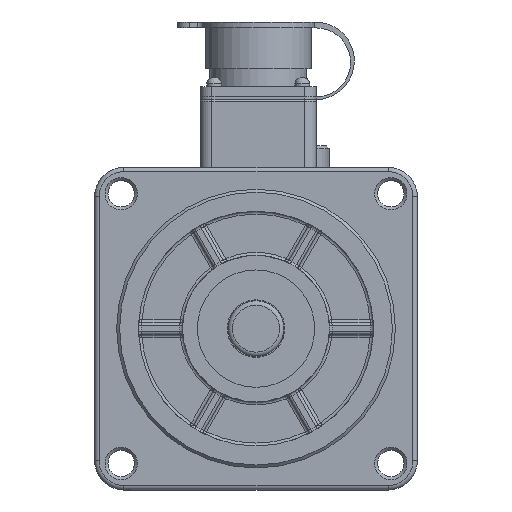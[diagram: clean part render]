
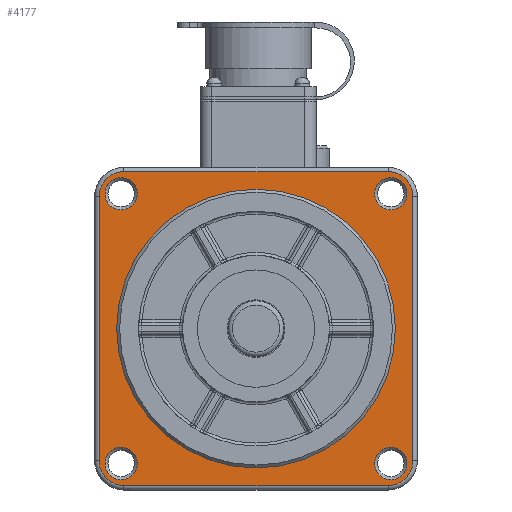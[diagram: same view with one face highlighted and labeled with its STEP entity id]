
A CAD part, front view. The second image highlights one B-rep face of the part: STEP entity #4177.
In plain terms, the highlighted planar face has unit normal (0, -1, 0).
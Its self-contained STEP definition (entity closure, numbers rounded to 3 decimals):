
#865=LINE('',#25832,#1773);
#866=LINE('',#25837,#1774);
#867=LINE('',#25841,#1775);
#868=LINE('',#25845,#1776);
#1773=VECTOR('',#19889,1.);
#1774=VECTOR('',#19892,1.);
#1775=VECTOR('',#19895,1.);
#1776=VECTOR('',#19898,1.);
#4177=ADVANCED_FACE('',(#5441,#5442,#5443,#5444,#5445,#5446),#5081,.F.);
#5081=PLANE('',#16956);
#5441=FACE_BOUND('',#6072,.T.);
#5442=FACE_BOUND('',#6073,.T.);
#5443=FACE_BOUND('',#6074,.T.);
#5444=FACE_BOUND('',#6075,.T.);
#5445=FACE_BOUND('',#6076,.T.);
#5446=FACE_BOUND('',#6077,.T.);
#6072=EDGE_LOOP('',(#8173,#8174,#8175,#8176,#8177,#8178,#8179,#8180));
#6073=EDGE_LOOP('',(#8181));
#6074=EDGE_LOOP('',(#8182));
#6075=EDGE_LOOP('',(#8183));
#6076=EDGE_LOOP('',(#8184));
#6077=EDGE_LOOP('',(#8185));
#8173=ORIENTED_EDGE('',*,*,#13678,.T.);
#8174=ORIENTED_EDGE('',*,*,#13679,.T.);
#8175=ORIENTED_EDGE('',*,*,#13680,.T.);
#8176=ORIENTED_EDGE('',*,*,#13681,.T.);
#8177=ORIENTED_EDGE('',*,*,#13682,.T.);
#8178=ORIENTED_EDGE('',*,*,#13683,.T.);
#8179=ORIENTED_EDGE('',*,*,#13684,.T.);
#8180=ORIENTED_EDGE('',*,*,#13685,.T.);
#8181=ORIENTED_EDGE('',*,*,#13661,.T.);
#8182=ORIENTED_EDGE('',*,*,#13686,.F.);
#8183=ORIENTED_EDGE('',*,*,#13687,.T.);
#8184=ORIENTED_EDGE('',*,*,#13688,.T.);
#8185=ORIENTED_EDGE('',*,*,#13689,.T.);
#12043=VERTEX_POINT('',#25768);
#12056=VERTEX_POINT('',#25833);
#12057=VERTEX_POINT('',#25834);
#12058=VERTEX_POINT('',#25836);
#12059=VERTEX_POINT('',#25838);
#12060=VERTEX_POINT('',#25840);
#12061=VERTEX_POINT('',#25842);
#12062=VERTEX_POINT('',#25844);
#12063=VERTEX_POINT('',#25846);
#12064=VERTEX_POINT('',#25849);
#12065=VERTEX_POINT('',#25851);
#12066=VERTEX_POINT('',#25853);
#12067=VERTEX_POINT('',#25855);
#13661=EDGE_CURVE('',#12043,#12043,#15579,.T.);
#13678=EDGE_CURVE('',#12056,#12057,#865,.T.);
#13679=EDGE_CURVE('',#12057,#12058,#15592,.T.);
#13680=EDGE_CURVE('',#12058,#12059,#866,.T.);
#13681=EDGE_CURVE('',#12059,#12060,#15593,.T.);
#13682=EDGE_CURVE('',#12060,#12061,#867,.T.);
#13683=EDGE_CURVE('',#12061,#12062,#15594,.T.);
#13684=EDGE_CURVE('',#12062,#12063,#868,.T.);
#13685=EDGE_CURVE('',#12063,#12056,#15595,.T.);
#13686=EDGE_CURVE('',#12064,#12064,#15596,.T.);
#13687=EDGE_CURVE('',#12065,#12065,#15597,.T.);
#13688=EDGE_CURVE('',#12066,#12066,#15598,.T.);
#13689=EDGE_CURVE('',#12067,#12067,#15599,.T.);
#15579=CIRCLE('',#16930,5.5);
#15592=CIRCLE('',#16948,8.5);
#15593=CIRCLE('',#16949,8.5);
#15594=CIRCLE('',#16950,8.5);
#15595=CIRCLE('',#16951,8.5);
#15596=CIRCLE('',#16952,47.5);
#15597=CIRCLE('',#16953,5.5);
#15598=CIRCLE('',#16954,5.5);
#15599=CIRCLE('',#16955,5.5);
#16930=AXIS2_PLACEMENT_3D('',#25767,#19851,#19852);
#16948=AXIS2_PLACEMENT_3D('',#25835,#19890,#19891);
#16949=AXIS2_PLACEMENT_3D('',#25839,#19893,#19894);
#16950=AXIS2_PLACEMENT_3D('',#25843,#19896,#19897);
#16951=AXIS2_PLACEMENT_3D('',#25847,#19899,#19900);
#16952=AXIS2_PLACEMENT_3D('',#25848,#19901,#19902);
#16953=AXIS2_PLACEMENT_3D('',#25850,#19903,#19904);
#16954=AXIS2_PLACEMENT_3D('',#25852,#19905,#19906);
#16955=AXIS2_PLACEMENT_3D('',#25854,#19907,#19908);
#16956=AXIS2_PLACEMENT_3D('',#25856,#19909,#19910);
#19851=DIRECTION('',(0.,1.,0.));
#19852=DIRECTION('',(-1.,0.,0.));
#19889=DIRECTION('',(0.,0.,1.));
#19890=DIRECTION('',(0.,-1.,0.));
#19891=DIRECTION('',(0.,0.,1.));
#19892=DIRECTION('',(-1.,0.,0.));
#19893=DIRECTION('',(0.,-1.,0.));
#19894=DIRECTION('',(0.,0.,1.));
#19895=DIRECTION('',(0.,0.,-1.));
#19896=DIRECTION('',(0.,-1.,0.));
#19897=DIRECTION('',(0.,0.,1.));
#19898=DIRECTION('',(1.,0.,0.));
#19899=DIRECTION('',(0.,-1.,0.));
#19900=DIRECTION('',(0.,0.,1.));
#19901=DIRECTION('',(0.,-1.,0.));
#19902=DIRECTION('',(-1.,0.,0.));
#19903=DIRECTION('',(0.,1.,0.));
#19904=DIRECTION('',(-1.,0.,0.));
#19905=DIRECTION('',(0.,1.,0.));
#19906=DIRECTION('',(-1.,0.,0.));
#19907=DIRECTION('',(0.,1.,0.));
#19908=DIRECTION('',(-1.,0.,0.));
#19909=DIRECTION('',(0.,1.,0.));
#19910=DIRECTION('',(1.,0.,0.));
#25767=CARTESIAN_POINT('',(401.086,483.922,-137.154));
#25768=CARTESIAN_POINT('',(395.586,483.922,-137.154));
#25832=CARTESIAN_POINT('',(408.624,483.922,-46.192));
#25833=CARTESIAN_POINT('',(408.624,483.922,-136.192));
#25834=CARTESIAN_POINT('',(408.624,483.922,-46.192));
#25835=CARTESIAN_POINT('',(400.124,483.922,-46.192));
#25836=CARTESIAN_POINT('',(400.124,483.922,-37.692));
#25837=CARTESIAN_POINT('',(310.124,483.922,-37.692));
#25838=CARTESIAN_POINT('',(310.124,483.922,-37.692));
#25839=CARTESIAN_POINT('',(310.124,483.922,-46.192));
#25840=CARTESIAN_POINT('',(301.624,483.922,-46.192));
#25841=CARTESIAN_POINT('',(301.624,483.922,-136.192));
#25842=CARTESIAN_POINT('',(301.624,483.922,-136.192));
#25843=CARTESIAN_POINT('',(310.124,483.922,-136.192));
#25844=CARTESIAN_POINT('',(310.124,483.922,-144.692));
#25845=CARTESIAN_POINT('',(400.124,483.922,-144.692));
#25846=CARTESIAN_POINT('',(400.124,483.922,-144.692));
#25847=CARTESIAN_POINT('',(400.124,483.922,-136.192));
#25848=CARTESIAN_POINT('',(355.124,483.922,-91.192));
#25849=CARTESIAN_POINT('',(307.624,483.922,-91.192));
#25850=CARTESIAN_POINT('',(401.086,483.922,-45.23));
#25851=CARTESIAN_POINT('',(395.586,483.922,-45.23));
#25852=CARTESIAN_POINT('',(309.162,483.922,-45.23));
#25853=CARTESIAN_POINT('',(303.662,483.922,-45.23));
#25854=CARTESIAN_POINT('',(309.162,483.922,-137.154));
#25855=CARTESIAN_POINT('',(303.662,483.922,-137.154));
#25856=CARTESIAN_POINT('',(355.124,483.922,-91.192));
